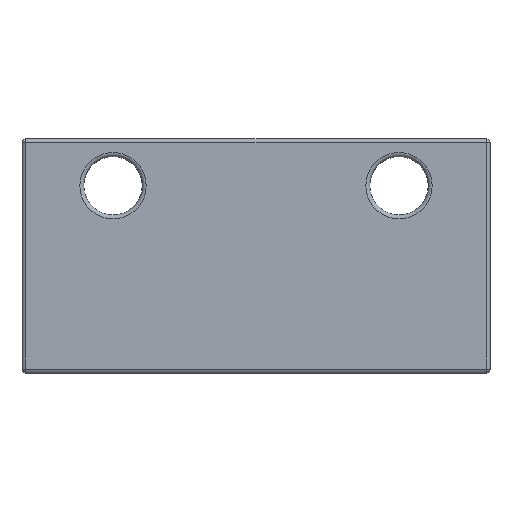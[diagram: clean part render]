
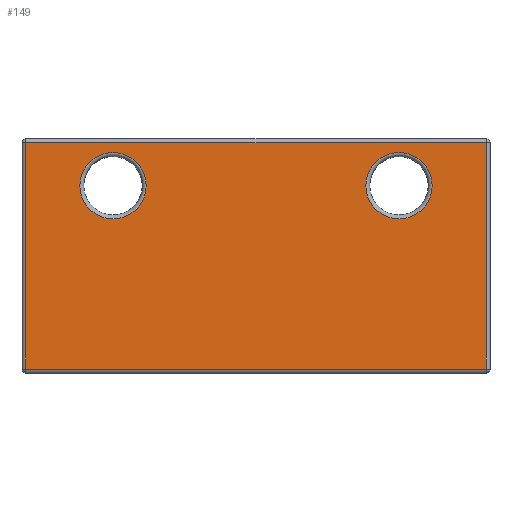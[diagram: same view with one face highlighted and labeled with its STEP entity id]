
A CAD part, top view. The second image highlights one B-rep face of the part: STEP entity #149.
In plain terms, the highlighted planar face has unit normal (0, 0, 1).
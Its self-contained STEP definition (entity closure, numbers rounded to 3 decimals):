
#84=CARTESIAN_POINT('',(-8.45,5.4,4.0));
#85=VERTEX_POINT('',#84);
#86=CARTESIAN_POINT('',(-11.0,5.4,4.0));
#87=DIRECTION('',(0.0,0.0,1.0));
#88=DIRECTION('',(-1.0,0.0,0.0));
#89=AXIS2_PLACEMENT_3D('',#86,#87,#88);
#90=CIRCLE('',#89,2.55);
#91=EDGE_CURVE('',#85,#85,#90,.T.);
#96=CARTESIAN_POINT('',(0.,0.,4.0));
#97=DIRECTION('',(0.0,0.0,1.0));
#98=DIRECTION('',(1.0,0.0,0.0));
#99=AXIS2_PLACEMENT_3D('',#96,#97,#98);
#100=PLANE('',#99);
#101=CARTESIAN_POINT('',(-17.7,-8.7,4.0));
#102=VERTEX_POINT('',#101);
#103=CARTESIAN_POINT('',(-17.7,8.7,4.0));
#104=VERTEX_POINT('',#103);
#105=CARTESIAN_POINT('',(-17.7,-8.7,4.0));
#106=DIRECTION('',(0.0,1.0,0.0));
#107=VECTOR('',#106,17.4);
#108=LINE('',#105,#107);
#109=EDGE_CURVE('',#102,#104,#108,.T.);
#110=ORIENTED_EDGE('',*,*,#109,.F.);
#111=CARTESIAN_POINT('',(17.7,-8.7,4.0));
#112=VERTEX_POINT('',#111);
#113=CARTESIAN_POINT('',(17.7,-8.7,4.0));
#114=DIRECTION('',(-1.0,0.0,0.0));
#115=VECTOR('',#114,35.4);
#116=LINE('',#113,#115);
#117=EDGE_CURVE('',#112,#102,#116,.T.);
#118=ORIENTED_EDGE('',*,*,#117,.F.);
#119=CARTESIAN_POINT('',(17.7,8.7,4.0));
#120=VERTEX_POINT('',#119);
#121=CARTESIAN_POINT('',(17.7,8.7,4.0));
#122=DIRECTION('',(0.0,-1.0,0.0));
#123=VECTOR('',#122,17.4);
#124=LINE('',#121,#123);
#125=EDGE_CURVE('',#120,#112,#124,.T.);
#126=ORIENTED_EDGE('',*,*,#125,.F.);
#127=CARTESIAN_POINT('',(-17.7,8.7,4.0));
#128=DIRECTION('',(1.0,0.0,0.0));
#129=VECTOR('',#128,35.4);
#130=LINE('',#127,#129);
#131=EDGE_CURVE('',#104,#120,#130,.T.);
#132=ORIENTED_EDGE('',*,*,#131,.F.);
#133=EDGE_LOOP('',(#110,#118,#126,#132));
#134=FACE_OUTER_BOUND('',#133,.T.);
#135=CARTESIAN_POINT('',(8.45,5.4,4.0));
#136=VERTEX_POINT('',#135);
#137=CARTESIAN_POINT('',(11.0,5.4,4.0));
#138=DIRECTION('',(0.0,0.0,1.0));
#139=DIRECTION('',(1.0,0.0,0.0));
#140=AXIS2_PLACEMENT_3D('',#137,#138,#139);
#141=CIRCLE('',#140,2.55);
#142=EDGE_CURVE('',#136,#136,#141,.T.);
#143=ORIENTED_EDGE('',*,*,#142,.F.);
#144=EDGE_LOOP('',(#143));
#145=FACE_BOUND('',#144,.T.);
#146=ORIENTED_EDGE('',*,*,#91,.F.);
#147=EDGE_LOOP('',(#146));
#148=FACE_BOUND('',#147,.T.);
#149=ADVANCED_FACE('',(#134,#145,#148),#100,.T.);
